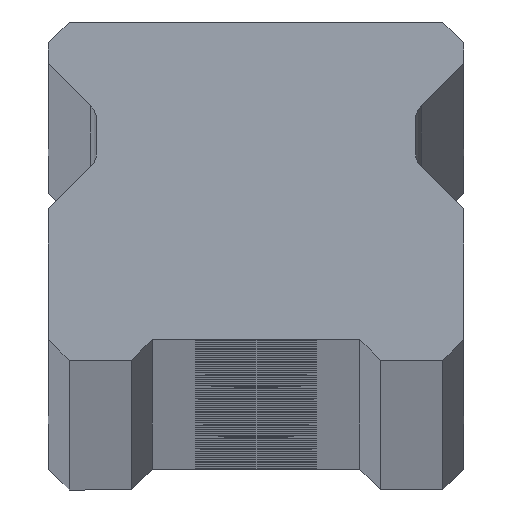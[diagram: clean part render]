
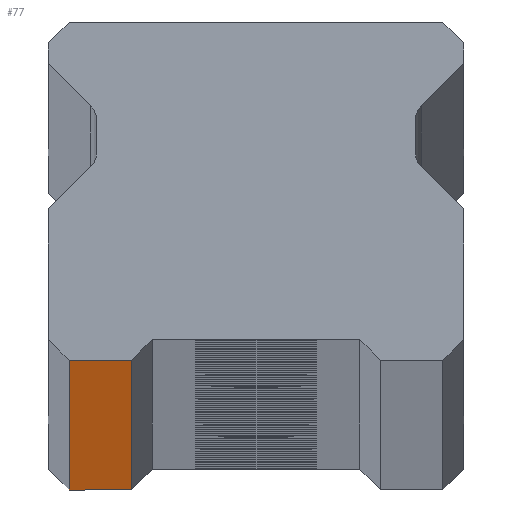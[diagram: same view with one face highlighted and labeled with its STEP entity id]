
A CAD part, top view. The second image highlights one B-rep face of the part: STEP entity #77.
In plain terms, the highlighted planar face has unit normal (0, -1, 0).
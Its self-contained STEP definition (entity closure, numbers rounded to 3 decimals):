
#27 = FACE_OUTER_BOUND ( 'NONE', #4483, .T. ) ;
#77 = ADVANCED_FACE ( 'NONE', ( #27 ), #1067, .F. ) ;
#310 = DIRECTION ( 'NONE',  ( -1., 0., 0. ) ) ;
#934 = CARTESIAN_POINT ( 'NONE',  ( 10., 0., 1790. ) ) ;
#1067 = PLANE ( 'NONE',  #1942 ) ;
#1317 = EDGE_CURVE ( 'NONE', #3599, #6257, #7634, .T. ) ;
#1942 = AXIS2_PLACEMENT_3D ( 'NONE', #934, #5900, #310 ) ;
#2040 = LINE ( 'NONE', #2326, #6440 ) ;
#2061 = ORIENTED_EDGE ( 'NONE', *, *, #6679, .F. ) ;
#2326 = CARTESIAN_POINT ( 'NONE',  ( 10., 0., 1790. ) ) ;
#2579 = LINE ( 'NONE', #3131, #9896 ) ;
#2611 = VERTEX_POINT ( 'NONE', #8439 ) ;
#2777 = DIRECTION ( 'NONE',  ( 1., 0., 0. ) ) ;
#3065 = EDGE_CURVE ( 'NONE', #2611, #5329, #2579, .T. ) ;
#3120 = DIRECTION ( 'NONE',  ( 0., 0., -1. ) ) ;
#3131 = CARTESIAN_POINT ( 'NONE',  ( -6., 0., -1790. ) ) ;
#3437 = VECTOR ( 'NONE', #2777, 1000. ) ;
#3599 = VERTEX_POINT ( 'NONE', #3922 ) ;
#3741 = VECTOR ( 'NONE', #3120, 1000. ) ;
#3922 = CARTESIAN_POINT ( 'NONE',  ( -9., 0., 1790. ) ) ;
#4005 = EDGE_CURVE ( 'NONE', #6257, #2611, #5507, .T. ) ;
#4097 = CARTESIAN_POINT ( 'NONE',  ( -9., 0., -1790. ) ) ;
#4483 = EDGE_LOOP ( 'NONE', ( #5269, #9206, #2061, #5646 ) ) ;
#4809 = DIRECTION ( 'NONE',  ( 0., 0., 1. ) ) ;
#5165 = CARTESIAN_POINT ( 'NONE',  ( 10., 0., -1790. ) ) ;
#5204 = CARTESIAN_POINT ( 'NONE',  ( -6., 0., 1790. ) ) ;
#5269 = ORIENTED_EDGE ( 'NONE', *, *, #4005, .T. ) ;
#5329 = VERTEX_POINT ( 'NONE', #5204 ) ;
#5499 = DIRECTION ( 'NONE',  ( 1., 0., 0. ) ) ;
#5507 = LINE ( 'NONE', #5165, #3437 ) ;
#5646 = ORIENTED_EDGE ( 'NONE', *, *, #1317, .T. ) ;
#5900 = DIRECTION ( 'NONE',  ( 0., 1., 0. ) ) ;
#6257 = VERTEX_POINT ( 'NONE', #4097 ) ;
#6440 = VECTOR ( 'NONE', #5499, 1000. ) ;
#6679 = EDGE_CURVE ( 'NONE', #3599, #5329, #2040, .T. ) ;
#7634 = LINE ( 'NONE', #7843, #3741 ) ;
#7843 = CARTESIAN_POINT ( 'NONE',  ( -9., 0., 1790. ) ) ;
#8439 = CARTESIAN_POINT ( 'NONE',  ( -6., 0., -1790. ) ) ;
#9206 = ORIENTED_EDGE ( 'NONE', *, *, #3065, .T. ) ;
#9896 = VECTOR ( 'NONE', #4809, 1000. ) ;
